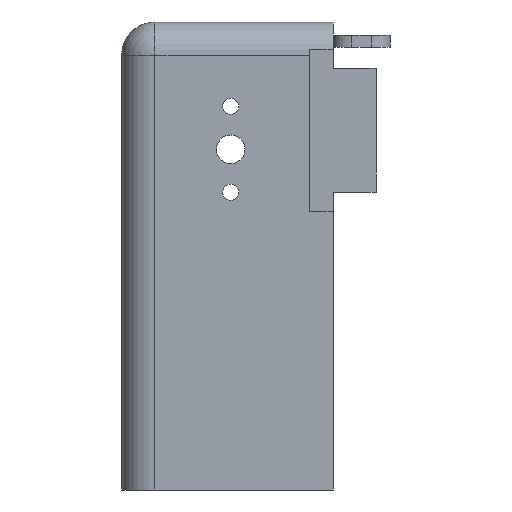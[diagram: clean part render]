
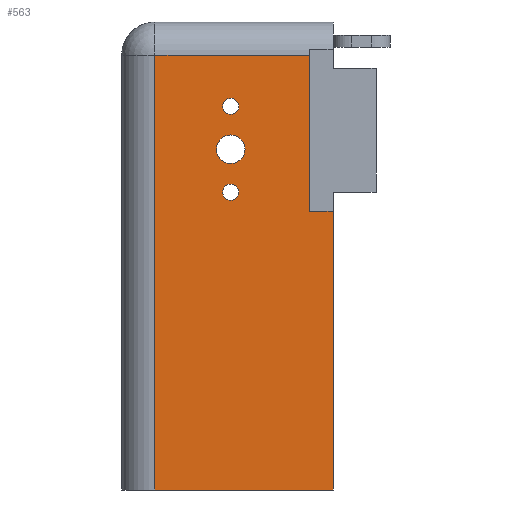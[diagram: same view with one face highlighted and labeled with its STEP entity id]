
A CAD part, front view. The second image highlights one B-rep face of the part: STEP entity #563.
In plain terms, the highlighted planar face has unit normal (0, -1, 0).
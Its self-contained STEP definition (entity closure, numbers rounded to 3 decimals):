
#44 = PLANE('',#45);
#45 = AXIS2_PLACEMENT_3D('',#46,#47,#48);
#46 = CARTESIAN_POINT('',(-90.9,-22.7,69.5));
#47 = DIRECTION('',(0.,0.,1.));
#48 = DIRECTION('',(1.,0.,0.));
#126 = CYLINDRICAL_SURFACE('',#127,7.);
#127 = AXIS2_PLACEMENT_3D('',#128,#129,#130);
#128 = CARTESIAN_POINT('',(-83.9,-15.7,69.5));
#129 = DIRECTION('',(0.,0.,1.));
#130 = DIRECTION('',(-1.,-0.,0.));
#143 = VERTEX_POINT('',#144);
#144 = CARTESIAN_POINT('',(-83.9,-22.7,69.5));
#166 = EDGE_CURVE('',#143,#167,#169,.T.);
#167 = VERTEX_POINT('',#168);
#168 = CARTESIAN_POINT('',(-46.5,-22.7,69.5));
#169 = SURFACE_CURVE('',#170,(#174,#181),.PCURVE_S1.);
#170 = LINE('',#171,#172);
#171 = CARTESIAN_POINT('',(-90.9,-22.7,69.5));
#172 = VECTOR('',#173,1.);
#173 = DIRECTION('',(1.,0.,0.));
#174 = PCURVE('',#44,#175);
#175 = DEFINITIONAL_REPRESENTATION('',(#176),#180);
#176 = LINE('',#177,#178);
#177 = CARTESIAN_POINT('',(0.,0.));
#178 = VECTOR('',#179,1.);
#179 = DIRECTION('',(1.,0.));
#180 = ( GEOMETRIC_REPRESENTATION_CONTEXT(2) 
PARAMETRIC_REPRESENTATION_CONTEXT() REPRESENTATION_CONTEXT('2D SPACE',''
  ) );
#181 = PCURVE('',#182,#187);
#182 = PLANE('',#183);
#183 = AXIS2_PLACEMENT_3D('',#184,#185,#186);
#184 = CARTESIAN_POINT('',(-90.9,-22.7,69.5));
#185 = DIRECTION('',(0.,1.,0.));
#186 = DIRECTION('',(0.,0.,1.));
#187 = DEFINITIONAL_REPRESENTATION('',(#188),#192);
#188 = LINE('',#189,#190);
#189 = CARTESIAN_POINT('',(0.,0.));
#190 = VECTOR('',#191,1.);
#191 = DIRECTION('',(0.,1.));
#192 = ( GEOMETRIC_REPRESENTATION_CONTEXT(2) 
PARAMETRIC_REPRESENTATION_CONTEXT() REPRESENTATION_CONTEXT('2D SPACE',''
  ) );
#210 = PLANE('',#211);
#211 = AXIS2_PLACEMENT_3D('',#212,#213,#214);
#212 = CARTESIAN_POINT('',(-46.5,-22.7,69.5));
#213 = DIRECTION('',(1.,0.,0.));
#214 = DIRECTION('',(0.,0.,1.));
#386 = EDGE_CURVE('',#143,#387,#389,.T.);
#387 = VERTEX_POINT('',#388);
#388 = CARTESIAN_POINT('',(-83.9,-22.7,160.7));
#389 = SURFACE_CURVE('',#390,(#394,#401),.PCURVE_S1.);
#390 = LINE('',#391,#392);
#391 = CARTESIAN_POINT('',(-83.9,-22.7,69.5));
#392 = VECTOR('',#393,1.);
#393 = DIRECTION('',(0.,0.,1.));
#394 = PCURVE('',#126,#395);
#395 = DEFINITIONAL_REPRESENTATION('',(#396),#400);
#396 = LINE('',#397,#398);
#397 = CARTESIAN_POINT('',(1.571,0.));
#398 = VECTOR('',#399,1.);
#399 = DIRECTION('',(0.,1.));
#400 = ( GEOMETRIC_REPRESENTATION_CONTEXT(2) 
PARAMETRIC_REPRESENTATION_CONTEXT() REPRESENTATION_CONTEXT('2D SPACE',''
  ) );
#401 = PCURVE('',#182,#402);
#402 = DEFINITIONAL_REPRESENTATION('',(#403),#407);
#403 = LINE('',#404,#405);
#404 = CARTESIAN_POINT('',(0.,7.));
#405 = VECTOR('',#406,1.);
#406 = DIRECTION('',(1.,0.));
#407 = ( GEOMETRIC_REPRESENTATION_CONTEXT(2) 
PARAMETRIC_REPRESENTATION_CONTEXT() REPRESENTATION_CONTEXT('2D SPACE',''
  ) );
#563 = ADVANCED_FACE('',(#564,#673,#704,#735),#182,.F.);
#564 = FACE_BOUND('',#565,.F.);
#565 = EDGE_LOOP('',(#566,#567,#568,#596,#624,#652));
#566 = ORIENTED_EDGE('',*,*,#166,.F.);
#567 = ORIENTED_EDGE('',*,*,#386,.T.);
#568 = ORIENTED_EDGE('',*,*,#569,.T.);
#569 = EDGE_CURVE('',#387,#570,#572,.T.);
#570 = VERTEX_POINT('',#571);
#571 = CARTESIAN_POINT('',(-51.5,-22.7,160.7));
#572 = SURFACE_CURVE('',#573,(#577,#584),.PCURVE_S1.);
#573 = LINE('',#574,#575);
#574 = CARTESIAN_POINT('',(-90.9,-22.7,160.7));
#575 = VECTOR('',#576,1.);
#576 = DIRECTION('',(1.,0.,0.));
#577 = PCURVE('',#182,#578);
#578 = DEFINITIONAL_REPRESENTATION('',(#579),#583);
#579 = LINE('',#580,#581);
#580 = CARTESIAN_POINT('',(91.2,0.));
#581 = VECTOR('',#582,1.);
#582 = DIRECTION('',(0.,1.));
#583 = ( GEOMETRIC_REPRESENTATION_CONTEXT(2) 
PARAMETRIC_REPRESENTATION_CONTEXT() REPRESENTATION_CONTEXT('2D SPACE',''
  ) );
#584 = PCURVE('',#585,#590);
#585 = CYLINDRICAL_SURFACE('',#586,7.);
#586 = AXIS2_PLACEMENT_3D('',#587,#588,#589);
#587 = CARTESIAN_POINT('',(-90.9,-15.7,160.7));
#588 = DIRECTION('',(1.,0.,0.));
#589 = DIRECTION('',(0.,-1.,0.));
#590 = DEFINITIONAL_REPRESENTATION('',(#591),#595);
#591 = LINE('',#592,#593);
#592 = CARTESIAN_POINT('',(-0.,0.));
#593 = VECTOR('',#594,1.);
#594 = DIRECTION('',(-0.,1.));
#595 = ( GEOMETRIC_REPRESENTATION_CONTEXT(2) 
PARAMETRIC_REPRESENTATION_CONTEXT() REPRESENTATION_CONTEXT('2D SPACE',''
  ) );
#596 = ORIENTED_EDGE('',*,*,#597,.F.);
#597 = EDGE_CURVE('',#598,#570,#600,.T.);
#598 = VERTEX_POINT('',#599);
#599 = CARTESIAN_POINT('',(-51.5,-22.7,128.));
#600 = SURFACE_CURVE('',#601,(#605,#612),.PCURVE_S1.);
#601 = LINE('',#602,#603);
#602 = CARTESIAN_POINT('',(-51.5,-22.7,128.));
#603 = VECTOR('',#604,1.);
#604 = DIRECTION('',(0.,0.,1.));
#605 = PCURVE('',#182,#606);
#606 = DEFINITIONAL_REPRESENTATION('',(#607),#611);
#607 = LINE('',#608,#609);
#608 = CARTESIAN_POINT('',(58.5,39.4));
#609 = VECTOR('',#610,1.);
#610 = DIRECTION('',(1.,0.));
#611 = ( GEOMETRIC_REPRESENTATION_CONTEXT(2) 
PARAMETRIC_REPRESENTATION_CONTEXT() REPRESENTATION_CONTEXT('2D SPACE',''
  ) );
#612 = PCURVE('',#613,#618);
#613 = PLANE('',#614);
#614 = AXIS2_PLACEMENT_3D('',#615,#616,#617);
#615 = CARTESIAN_POINT('',(-51.5,-34.4,128.));
#616 = DIRECTION('',(1.,0.,0.));
#617 = DIRECTION('',(0.,0.,1.));
#618 = DEFINITIONAL_REPRESENTATION('',(#619),#623);
#619 = LINE('',#620,#621);
#620 = CARTESIAN_POINT('',(0.,-11.7));
#621 = VECTOR('',#622,1.);
#622 = DIRECTION('',(1.,0.));
#623 = ( GEOMETRIC_REPRESENTATION_CONTEXT(2) 
PARAMETRIC_REPRESENTATION_CONTEXT() REPRESENTATION_CONTEXT('2D SPACE',''
  ) );
#624 = ORIENTED_EDGE('',*,*,#625,.T.);
#625 = EDGE_CURVE('',#598,#626,#628,.T.);
#626 = VERTEX_POINT('',#627);
#627 = CARTESIAN_POINT('',(-46.5,-22.7,128.));
#628 = SURFACE_CURVE('',#629,(#633,#640),.PCURVE_S1.);
#629 = LINE('',#630,#631);
#630 = CARTESIAN_POINT('',(-51.5,-22.7,128.));
#631 = VECTOR('',#632,1.);
#632 = DIRECTION('',(1.,0.,0.));
#633 = PCURVE('',#182,#634);
#634 = DEFINITIONAL_REPRESENTATION('',(#635),#639);
#635 = LINE('',#636,#637);
#636 = CARTESIAN_POINT('',(58.5,39.4));
#637 = VECTOR('',#638,1.);
#638 = DIRECTION('',(0.,1.));
#639 = ( GEOMETRIC_REPRESENTATION_CONTEXT(2) 
PARAMETRIC_REPRESENTATION_CONTEXT() REPRESENTATION_CONTEXT('2D SPACE',''
  ) );
#640 = PCURVE('',#641,#646);
#641 = PLANE('',#642);
#642 = AXIS2_PLACEMENT_3D('',#643,#644,#645);
#643 = CARTESIAN_POINT('',(-51.5,-34.4,128.));
#644 = DIRECTION('',(0.,0.,1.));
#645 = DIRECTION('',(1.,0.,0.));
#646 = DEFINITIONAL_REPRESENTATION('',(#647),#651);
#647 = LINE('',#648,#649);
#648 = CARTESIAN_POINT('',(0.,11.7));
#649 = VECTOR('',#650,1.);
#650 = DIRECTION('',(1.,0.));
#651 = ( GEOMETRIC_REPRESENTATION_CONTEXT(2) 
PARAMETRIC_REPRESENTATION_CONTEXT() REPRESENTATION_CONTEXT('2D SPACE',''
  ) );
#652 = ORIENTED_EDGE('',*,*,#653,.F.);
#653 = EDGE_CURVE('',#167,#626,#654,.T.);
#654 = SURFACE_CURVE('',#655,(#659,#666),.PCURVE_S1.);
#655 = LINE('',#656,#657);
#656 = CARTESIAN_POINT('',(-46.5,-22.7,69.5));
#657 = VECTOR('',#658,1.);
#658 = DIRECTION('',(0.,0.,1.));
#659 = PCURVE('',#182,#660);
#660 = DEFINITIONAL_REPRESENTATION('',(#661),#665);
#661 = LINE('',#662,#663);
#662 = CARTESIAN_POINT('',(0.,44.4));
#663 = VECTOR('',#664,1.);
#664 = DIRECTION('',(1.,0.));
#665 = ( GEOMETRIC_REPRESENTATION_CONTEXT(2) 
PARAMETRIC_REPRESENTATION_CONTEXT() REPRESENTATION_CONTEXT('2D SPACE',''
  ) );
#666 = PCURVE('',#210,#667);
#667 = DEFINITIONAL_REPRESENTATION('',(#668),#672);
#668 = LINE('',#669,#670);
#669 = CARTESIAN_POINT('',(0.,0.));
#670 = VECTOR('',#671,1.);
#671 = DIRECTION('',(1.,0.));
#672 = ( GEOMETRIC_REPRESENTATION_CONTEXT(2) 
PARAMETRIC_REPRESENTATION_CONTEXT() REPRESENTATION_CONTEXT('2D SPACE',''
  ) );
#673 = FACE_BOUND('',#674,.F.);
#674 = EDGE_LOOP('',(#675));
#675 = ORIENTED_EDGE('',*,*,#676,.F.);
#676 = EDGE_CURVE('',#677,#677,#679,.T.);
#677 = VERTEX_POINT('',#678);
#678 = CARTESIAN_POINT('',(-68.,-22.7,133.7));
#679 = SURFACE_CURVE('',#680,(#685,#692),.PCURVE_S1.);
#680 = CIRCLE('',#681,1.7);
#681 = AXIS2_PLACEMENT_3D('',#682,#683,#684);
#682 = CARTESIAN_POINT('',(-68.,-22.7,132.));
#683 = DIRECTION('',(0.,1.,0.));
#684 = DIRECTION('',(0.,-0.,1.));
#685 = PCURVE('',#182,#686);
#686 = DEFINITIONAL_REPRESENTATION('',(#687),#691);
#687 = CIRCLE('',#688,1.7);
#688 = AXIS2_PLACEMENT_2D('',#689,#690);
#689 = CARTESIAN_POINT('',(62.5,22.9));
#690 = DIRECTION('',(1.,0.));
#691 = ( GEOMETRIC_REPRESENTATION_CONTEXT(2) 
PARAMETRIC_REPRESENTATION_CONTEXT() REPRESENTATION_CONTEXT('2D SPACE',''
  ) );
#692 = PCURVE('',#693,#698);
#693 = CYLINDRICAL_SURFACE('',#694,1.7);
#694 = AXIS2_PLACEMENT_3D('',#695,#696,#697);
#695 = CARTESIAN_POINT('',(-68.,-25.9,132.));
#696 = DIRECTION('',(0.,1.,0.));
#697 = DIRECTION('',(0.,-0.,1.));
#698 = DEFINITIONAL_REPRESENTATION('',(#699),#703);
#699 = LINE('',#700,#701);
#700 = CARTESIAN_POINT('',(0.,3.2));
#701 = VECTOR('',#702,1.);
#702 = DIRECTION('',(1.,0.));
#703 = ( GEOMETRIC_REPRESENTATION_CONTEXT(2) 
PARAMETRIC_REPRESENTATION_CONTEXT() REPRESENTATION_CONTEXT('2D SPACE',''
  ) );
#704 = FACE_BOUND('',#705,.F.);
#705 = EDGE_LOOP('',(#706));
#706 = ORIENTED_EDGE('',*,*,#707,.F.);
#707 = EDGE_CURVE('',#708,#708,#710,.T.);
#708 = VERTEX_POINT('',#709);
#709 = CARTESIAN_POINT('',(-68.,-22.7,144.));
#710 = SURFACE_CURVE('',#711,(#716,#723),.PCURVE_S1.);
#711 = CIRCLE('',#712,3.);
#712 = AXIS2_PLACEMENT_3D('',#713,#714,#715);
#713 = CARTESIAN_POINT('',(-68.,-22.7,141.));
#714 = DIRECTION('',(0.,1.,0.));
#715 = DIRECTION('',(0.,-0.,1.));
#716 = PCURVE('',#182,#717);
#717 = DEFINITIONAL_REPRESENTATION('',(#718),#722);
#718 = CIRCLE('',#719,3.);
#719 = AXIS2_PLACEMENT_2D('',#720,#721);
#720 = CARTESIAN_POINT('',(71.5,22.9));
#721 = DIRECTION('',(1.,0.));
#722 = ( GEOMETRIC_REPRESENTATION_CONTEXT(2) 
PARAMETRIC_REPRESENTATION_CONTEXT() REPRESENTATION_CONTEXT('2D SPACE',''
  ) );
#723 = PCURVE('',#724,#729);
#724 = CYLINDRICAL_SURFACE('',#725,3.);
#725 = AXIS2_PLACEMENT_3D('',#726,#727,#728);
#726 = CARTESIAN_POINT('',(-68.,-25.9,141.));
#727 = DIRECTION('',(0.,1.,0.));
#728 = DIRECTION('',(0.,-0.,1.));
#729 = DEFINITIONAL_REPRESENTATION('',(#730),#734);
#730 = LINE('',#731,#732);
#731 = CARTESIAN_POINT('',(0.,3.2));
#732 = VECTOR('',#733,1.);
#733 = DIRECTION('',(1.,0.));
#734 = ( GEOMETRIC_REPRESENTATION_CONTEXT(2) 
PARAMETRIC_REPRESENTATION_CONTEXT() REPRESENTATION_CONTEXT('2D SPACE',''
  ) );
#735 = FACE_BOUND('',#736,.F.);
#736 = EDGE_LOOP('',(#737));
#737 = ORIENTED_EDGE('',*,*,#738,.F.);
#738 = EDGE_CURVE('',#739,#739,#741,.T.);
#739 = VERTEX_POINT('',#740);
#740 = CARTESIAN_POINT('',(-68.,-22.7,151.7));
#741 = SURFACE_CURVE('',#742,(#747,#754),.PCURVE_S1.);
#742 = CIRCLE('',#743,1.7);
#743 = AXIS2_PLACEMENT_3D('',#744,#745,#746);
#744 = CARTESIAN_POINT('',(-68.,-22.7,150.));
#745 = DIRECTION('',(0.,1.,0.));
#746 = DIRECTION('',(0.,-0.,1.));
#747 = PCURVE('',#182,#748);
#748 = DEFINITIONAL_REPRESENTATION('',(#749),#753);
#749 = CIRCLE('',#750,1.7);
#750 = AXIS2_PLACEMENT_2D('',#751,#752);
#751 = CARTESIAN_POINT('',(80.5,22.9));
#752 = DIRECTION('',(1.,0.));
#753 = ( GEOMETRIC_REPRESENTATION_CONTEXT(2) 
PARAMETRIC_REPRESENTATION_CONTEXT() REPRESENTATION_CONTEXT('2D SPACE',''
  ) );
#754 = PCURVE('',#755,#760);
#755 = CYLINDRICAL_SURFACE('',#756,1.7);
#756 = AXIS2_PLACEMENT_3D('',#757,#758,#759);
#757 = CARTESIAN_POINT('',(-68.,-25.9,150.));
#758 = DIRECTION('',(0.,1.,0.));
#759 = DIRECTION('',(0.,-0.,1.));
#760 = DEFINITIONAL_REPRESENTATION('',(#761),#765);
#761 = LINE('',#762,#763);
#762 = CARTESIAN_POINT('',(0.,3.2));
#763 = VECTOR('',#764,1.);
#764 = DIRECTION('',(1.,0.));
#765 = ( GEOMETRIC_REPRESENTATION_CONTEXT(2) 
PARAMETRIC_REPRESENTATION_CONTEXT() REPRESENTATION_CONTEXT('2D SPACE',''
  ) );
